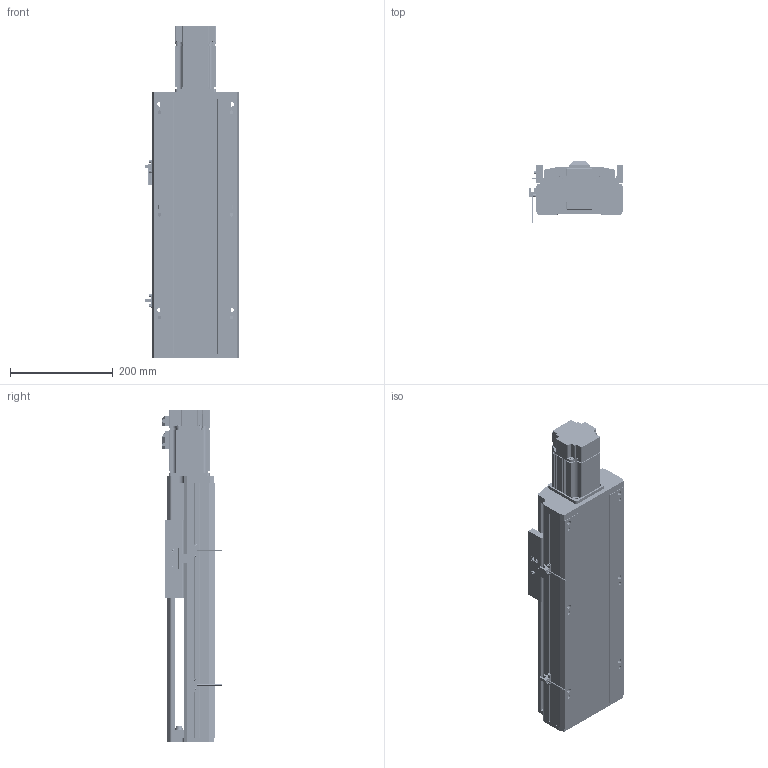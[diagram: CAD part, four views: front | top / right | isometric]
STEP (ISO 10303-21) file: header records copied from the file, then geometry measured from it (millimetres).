
FILE_DESCRIPTION (( 'STEP AP214' ), '1' );
FILE_NAME ('CTH170-250.STEP', '2019-11-25T08:47:06', ( '微软用户' ), ( '微软中国' ), 'SwSTEP 2.0', 'SolidWorks 2017', '' );
FILE_SCHEMA (( 'AUTOMOTIVE_DESIGN' ));
Length unit declared in the file: millimetre
Products named in the file (32): _C-BSST2005_n; SFS2005-411-SZC; SFH2010佪裝; M3-L8囀鞠褒蹟佪; 80EMA-016A; EE-SX672峚倰換覜ん; 170萇儂啣; CT17耀郪-覜茼んえ; 170傷啣; M6-L20囀鞠褒蹟佪; EGH20CA; 蚾饜极3^CTH170-L10-200; M5-L20囀鞠褒蹟佪-BR L; M4-L10囀鞠褒蹟佪-BR L; M5-L10囀鞠褒蹟佪; 坶踡蹟簽M15x1; EGH20CA_BLOCK; 潔路遠COL15-A; EG20_RAIL; MISUMI_B7002-DB_盄俶絳砃粣; 170賑怢; BEARING_MISUMI_B7002-DB_盄俶絳砃粣; 170裔啣^CTH170-L10-200; 錨璃8^蚾饜极3_CTH170-L10-200; 錨璃2; 复件 轴承座^装配体3_CTH170-L10-200; 佪話盓傅釱^CTH170-L10-200; CTH170-250; M5-L16囀鞠褒蹟佪; 遣喳蝶15x12x8-BR L; 支撑座^丝杠支撑座_CTH170-L10-200; B6002Z
Assembly tree (79 placements, depth 4):
  CTH170-250
    錨璃2
    170裔啣^CTH170-L10-200
    170賑怢
    EGH20CA  x2
      EG20_RAIL
      EGH20CA_BLOCK
      M5-L10囀鞠褒蹟佪
      M5-L20囀鞠褒蹟佪-BR L
    170傷啣
    170萇儂啣
    80EMA-016A
    SFS2005-411-SZC
      SFH2010佪裝
    _C-BSST2005_n
    佪話盓傅釱^CTH170-L10-200
      B6002Z
      支撑座^丝杠支撑座_CTH170-L10-200
      遣喳蝶15x12x8-BR L  x2
      M5-L16囀鞠褒蹟佪  x2
    蚾饜极3^CTH170-L10-200
      复件 轴承座^装配体3_CTH170-L10-200
      錨璃8^蚾饜极3_CTH170-L10-200
      MISUMI_B7002-DB_盄俶絳砃粣
        BEARING_MISUMI_B7002-DB_盄俶絳砃粣  x2
      潔路遠COL15-A  x2
      坶踡蹟簽M15x1
      M5-L16囀鞠褒蹟佪  x6
      M4-L10囀鞠褒蹟佪-BR L  x4
    遣喳蝶15x12x8-BR L  x2
    M6-L20囀鞠褒蹟佪  x4
    M4-L10囀鞠褒蹟佪-BR L  x10
    M5-L16囀鞠褒蹟佪  x4
    CT17耀郪-覜茼んえ
    EE-SX672峚倰換覜ん  x2
    M3-L8囀鞠褒蹟佪  x4
Bounding box: 183.7 x 117.95 x 646 mm (x, y, z)
Volume: 4309909.5 mm3; surface area: 1222848.7 mm2
Topology: 91 solids, 92 shells, 5481 faces, 14323 edges, 9140 vertices
Faces by surface type: plane 3094, cylinder 1400, cone 605, bspline 342, torus 40
Entity records: 96324 total; most frequent: CARTESIAN_POINT 20481, ORIENTED_EDGE 13824, DIRECTION 13431, EDGE_CURVE 6912, AXIS2_PLACEMENT_3D 4640, VERTEX_POINT 4492, LINE 4151, VECTOR 4151
